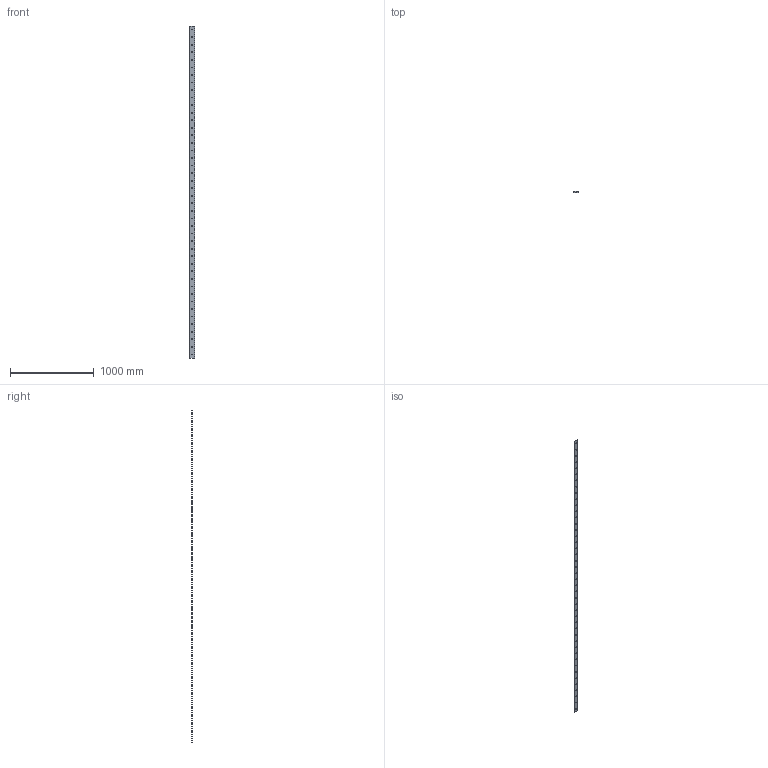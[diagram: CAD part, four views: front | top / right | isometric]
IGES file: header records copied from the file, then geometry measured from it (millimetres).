
Start section: 3D InterOp IGES (v. 2019 1.0.2), Spatial Corp. Copyright (c) 1999-2017.
Global section: file name: SS M60 3956.igs; native system: Spatial Corp.; preprocessor: 3D InterOp GENERIC/IGES 3.0; author: Noname; organization: Noname; date: 20220628.112214; units: millimetre
Bounding box: 59.68 x 6.1 x 3956 mm (x, y, z)
Surface area: 493393.6 mm2 (no closed solid volume)
Topology: 0 solids, 0 shells, 100 faces, 588 edges, 588 vertices
Faces by surface type: revolution 92, extrusion 8
